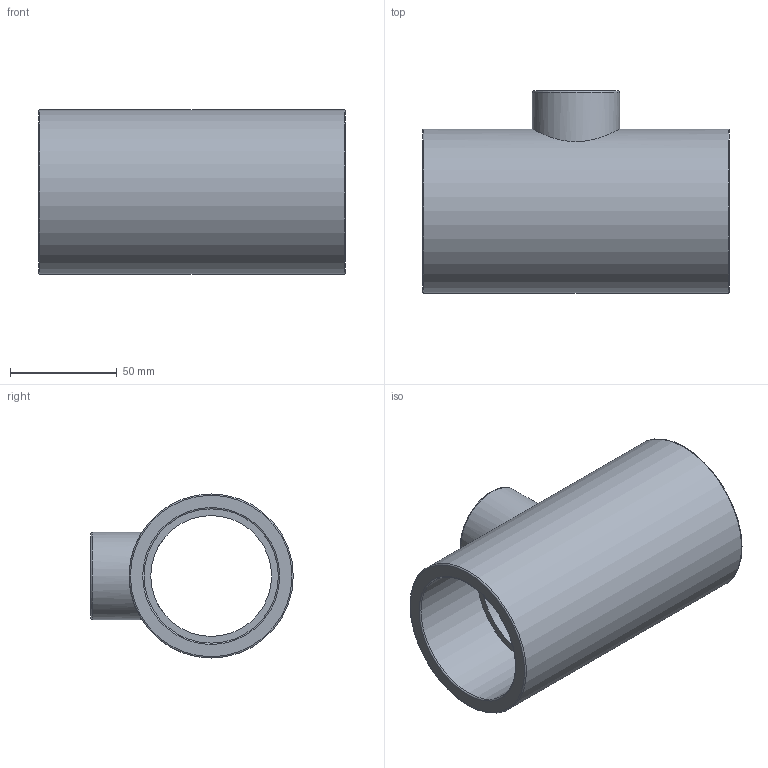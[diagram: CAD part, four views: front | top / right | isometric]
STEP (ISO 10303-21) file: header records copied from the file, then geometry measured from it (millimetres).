
FILE_DESCRIPTION(/* description */ ('PLASSON REDUCER TEE - CEMENT PVC 63-32-63'),/* implementation_level */ '2;1');
FILE_NAME(/* name */ 'C:\Dropbox\KIMPROJECTS-Inventor\99-16-3568-Processing\PVC Catalog 2017\051400\051400063032.ipt.stp',/* time_stamp */ '2017-12-07T16:00:24+02:00',/* author */ ('KIM'),/* organization */ (''),/* preprocessor_version */ 'ST-DEVELOPER v15.6',/* originating_system */ 'Autodesk Inventor 2015',/* authorisation */ '');
FILE_SCHEMA (('AUTOMOTIVE_DESIGN { 1 0 10303 214 3 1 1 }'));
Length unit declared in the file: millimetre
Products named in the file (1): 051400063032
Bounding box: 144 x 95 x 77 mm (x, y, z)
Volume: 265172.5 mm3; surface area: 70207.3 mm2
Topology: 1 solids, 1 shells, 19 faces, 39 edges, 24 vertices
Faces by surface type: cylinder 7, torus 6, plane 6
Full cylindrical faces by diameter (mm): 28.8 x1, 32 x1, 41 x1, 56.7 x1, 63 x2, 77 x1
Entity records: 534 total; most frequent: CARTESIAN_POINT 174, DIRECTION 76, EDGE_LOOP 40, ORIENTED_EDGE 40, AXIS2_PLACEMENT_3D 38, FACE_BOUND 21, VERTEX_POINT 20, EDGE_CURVE 20
